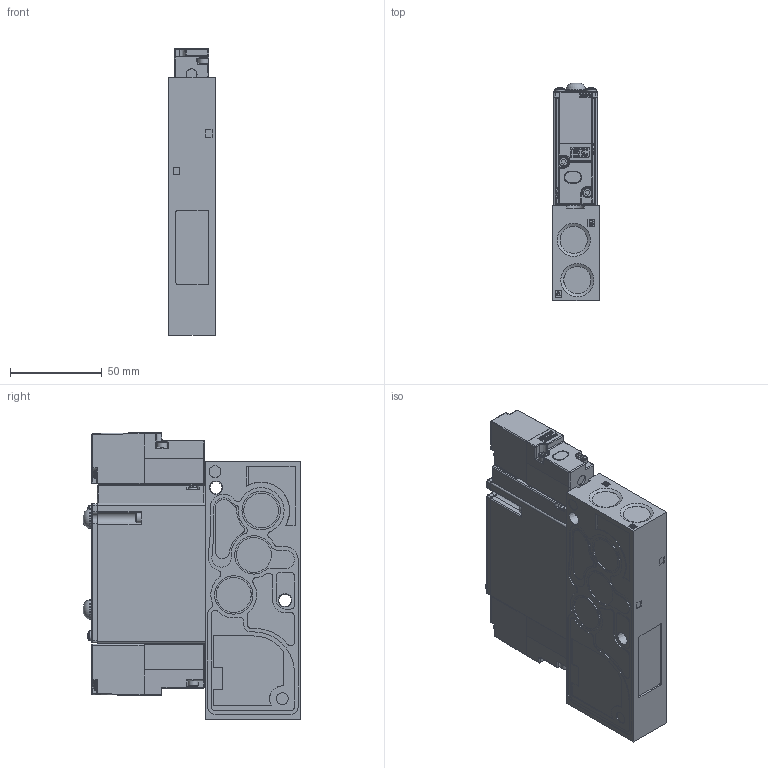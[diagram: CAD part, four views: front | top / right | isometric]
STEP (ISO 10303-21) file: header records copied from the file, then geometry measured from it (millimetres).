
FILE_DESCRIPTION (( 'STEP AP214' ), '1' );
FILE_NAME ('92A-BAA-C1K-DM-DXXP-1DM.STEP', '2019-07-05T15:17:42', ( 'user' ), ( '' ), 'SwSTEP 2.0', 'SolidWorks 2014', '' );
FILE_SCHEMA (( 'AUTOMOTIVE_DESIGN' ));
Length unit declared in the file: millimetre
Products named in the file (6): 92-PILOT-DM3; 92-BODY-BAA; 92-OVERRIDE-1; 92-OPERATOR-DXXP-YDM; 92-BASE-C1J; 92A-BAA-C1K-DM-DXXP-1DM
Assembly tree (8 placements, depth 2):
  92A-BAA-C1K-DM-DXXP-1DM
    92-BASE-C1J
    92-OPERATOR-DXXP-YDM  x2
    92-OVERRIDE-1  x2
    92-BODY-BAA
    92-PILOT-DM3  x2
Bounding box: 25.5 x 118.6 x 156.5 mm (x, y, z)
Volume: 357648.1 mm3; surface area: 84671.4 mm2
Topology: 34 solids, 34 shells, 2809 faces, 7233 edges, 4690 vertices
Faces by surface type: plane 1541, cylinder 805, cone 277, bspline 80, torus 55, sphere 51
Full cylindrical faces by diameter (mm): 0.01 x4, 0.72 x2, 0.85 x2, 0.95 x4, 1 x2, 2 x4, 2.2 x2, 2.4 x6, 2.5 x2, 2.6 x4, 2.7 x2, 2.79 x4, 3 x10, 3.15 x4, 3.25 x4, 3.3 x4, 3.35 x4, 4.775 x4, 5 x2, 5.1 x2, 5.5 x10, 5.6 x2, 6.22 x2, 6.8 x4, 6.92 x2, 7 x2, 9.5 x3, 10.13 x2, 10.5 x2, 11.008 x2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
Entity records: 88282 total; most frequent: CARTESIAN_POINT 14745, DIRECTION 10442, ORIENTED_EDGE 10332, EDGE_CURVE 5166, AXIS2_PLACEMENT_3D 3630, VERTEX_POINT 3460, LINE 3182, VECTOR 3182
